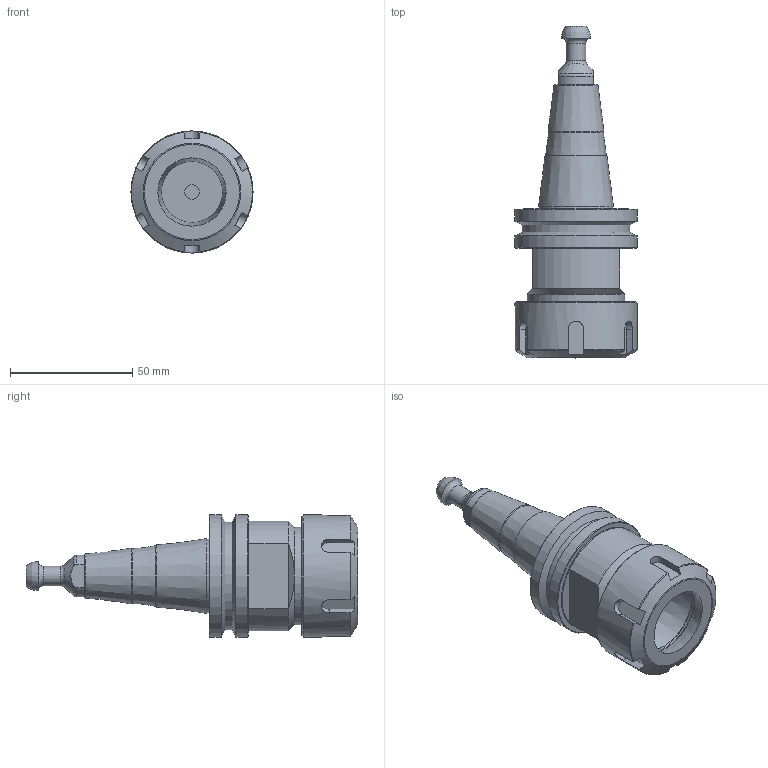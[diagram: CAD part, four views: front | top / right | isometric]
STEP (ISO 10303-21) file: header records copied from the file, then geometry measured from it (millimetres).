
FILE_DESCRIPTION(/* description */ (''),/* implementation_level */ '2;1');
FILE_NAME(/* name */ 'X:\Проектный отдел\Слава\ISO30-ER32-60_сборка.stp',/* time_stamp */ '2021-09-30T09:34:03+03:00',/* author */ ('Евгений'),/* organization */ (''),/* preprocessor_version */ 'ST-DEVELOPER v18',/* originating_system */ 'Autodesk Inventor 2020',/* authorisation */ '');
FILE_SCHEMA (('AUTOMOTIVE_DESIGN { 1 0 10303 214 3 1 1 }'));
Length unit declared in the file: millimetre
Products named in the file (3): ISO30-ER32-60_сборка; ISO30-ER32-60; ISO30-ER32-60_nut
Assembly tree (2 placements, depth 2):
  ISO30-ER32-60_сборка
    ISO30-ER32-60
    ISO30-ER32-60_nut
Bounding box: 50 x 136 x 50 mm (x, y, z)
Volume: 93907.5 mm3; surface area: 29637 mm2
Topology: 3 solids, 3 shells, 101 faces, 265 edges, 177 vertices
Faces by surface type: plane 41, cone 29, cylinder 24, torus 6, bspline 1
Full cylindrical faces by diameter (mm): 3 x3, 6 x1, 8 x1, 24.973 x1, 32 x1, 40 x2, 50 x3
Entity records: 3585 total; most frequent: CARTESIAN_POINT 832, DIRECTION 568, ORIENTED_EDGE 530, EDGE_CURVE 265, AXIS2_PLACEMENT_3D 236, VERTEX_POINT 177, CIRCLE 131, EDGE_LOOP 110
